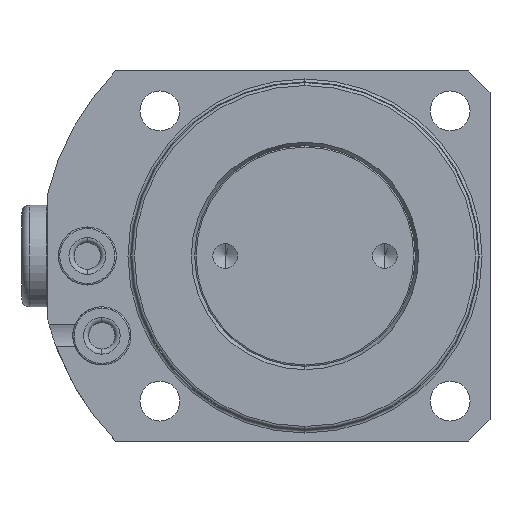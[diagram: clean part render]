
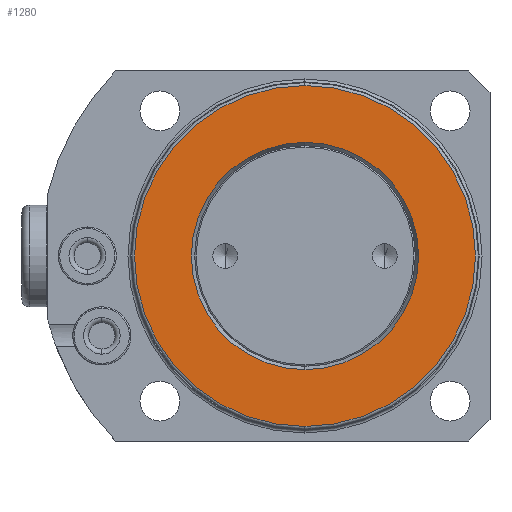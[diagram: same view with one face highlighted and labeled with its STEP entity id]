
A CAD part, front view. The second image highlights one B-rep face of the part: STEP entity #1280.
In plain terms, the highlighted planar face has unit normal (0, -1, 0).
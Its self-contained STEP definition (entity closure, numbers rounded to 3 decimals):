
#480=PLANE('',#4942);
#560=FACE_BOUND('',#1866,.T.);
#561=FACE_BOUND('',#1867,.T.);
#1280=ADVANCED_FACE('',(#560,#561),#480,.F.);
#1866=EDGE_LOOP('',(#2950,#2951));
#1867=EDGE_LOOP('',(#2952,#2953));
#2950=ORIENTED_EDGE('',*,*,#3898,.F.);
#2951=ORIENTED_EDGE('',*,*,#4026,.F.);
#2952=ORIENTED_EDGE('',*,*,#3903,.T.);
#2953=ORIENTED_EDGE('',*,*,#4025,.T.);
#3386=VERTEX_POINT('',#7888);
#3387=VERTEX_POINT('',#7889);
#3390=VERTEX_POINT('',#7897);
#3391=VERTEX_POINT('',#7899);
#3898=EDGE_CURVE('',#3386,#3387,#4293,.T.);
#3903=EDGE_CURVE('',#3391,#3390,#4297,.T.);
#4025=EDGE_CURVE('',#3390,#3391,#4369,.T.);
#4026=EDGE_CURVE('',#3387,#3386,#4370,.T.);
#4293=CIRCLE('',#4821,23.5);
#4297=CIRCLE('',#4826,15.662);
#4369=CIRCLE('',#4939,15.662);
#4370=CIRCLE('',#4941,23.5);
#4821=AXIS2_PLACEMENT_3D('',#7887,#6026,#6027);
#4826=AXIS2_PLACEMENT_3D('',#7898,#6037,#6038);
#4939=AXIS2_PLACEMENT_3D('',#8252,#6296,#6297);
#4941=AXIS2_PLACEMENT_3D('',#8254,#6300,#6301);
#4942=AXIS2_PLACEMENT_3D('',#8255,#6302,#6303);
#6026=DIRECTION('',(0.,1.,0.));
#6027=DIRECTION('',(0.,0.,1.));
#6037=DIRECTION('',(0.,1.,0.));
#6038=DIRECTION('',(0.,0.,1.));
#6296=DIRECTION('',(0.,1.,0.));
#6297=DIRECTION('',(0.,0.,1.));
#6300=DIRECTION('',(0.,1.,0.));
#6301=DIRECTION('',(0.,0.,1.));
#6302=DIRECTION('',(0.,1.,0.));
#6303=DIRECTION('',(0.,0.,-1.));
#7887=CARTESIAN_POINT('',(0.,0.255,0.));
#7888=CARTESIAN_POINT('',(0.,0.255,23.5));
#7889=CARTESIAN_POINT('',(0.,0.255,-23.5));
#7897=CARTESIAN_POINT('',(0.,0.255,15.662));
#7898=CARTESIAN_POINT('',(0.,0.255,0.));
#7899=CARTESIAN_POINT('',(0.,0.255,-15.662));
#8252=CARTESIAN_POINT('',(0.,0.255,0.));
#8254=CARTESIAN_POINT('',(0.,0.255,0.));
#8255=CARTESIAN_POINT('',(23.5,0.255,0.));
